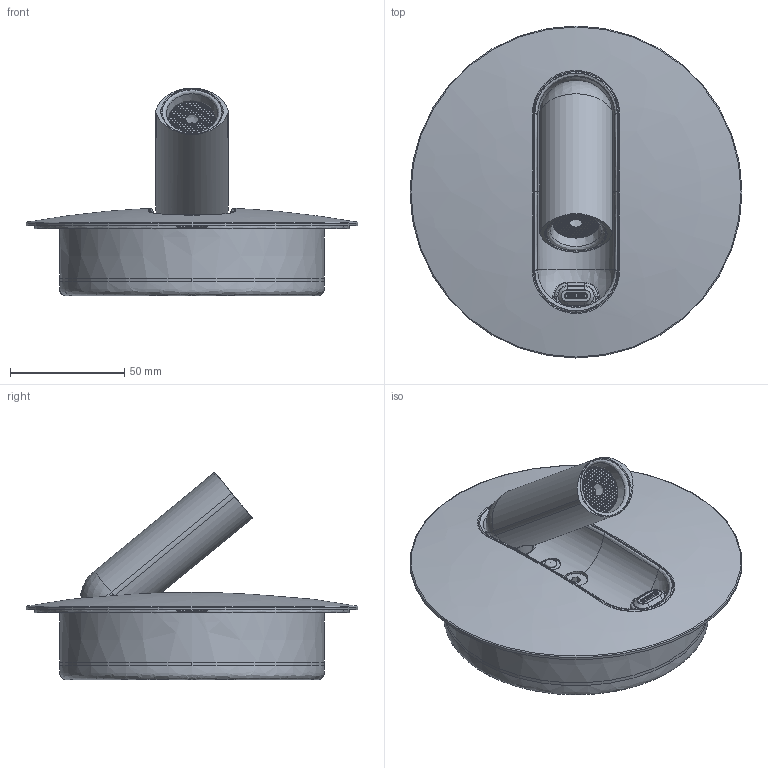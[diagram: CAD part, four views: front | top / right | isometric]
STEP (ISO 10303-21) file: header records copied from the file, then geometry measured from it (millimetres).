
FILE_DESCRIPTION(/* description */ (''),/* implementation_level */ '2;1');
FILE_NAME(/* name */ 'timit_walllamp_usb.step',/* time_stamp */ '2024-12-12T08:36:54+01:00',/* author */ ('RenataManzini'),/* organization */ (''),/* preprocessor_version */ 'ST-DEVELOPER v20',/* originating_system */ 'AutoCAD Mechanical',/* authorisation */ '');
FILE_SCHEMA (('AUTOMOTIVE_DESIGN { 1 0 10303 214 3 1 1 }'));
Length unit declared in the file: millimetre
Products named in the file (1): Product
Bounding box: 145 x 145 x 90.65 mm (x, y, z)
Volume: 26079.4 mm3; surface area: 113629.1 mm2
Topology: 9 solids, 12 shells, 1015 faces, 2287 edges, 1426 vertices
Faces by surface type: cylinder 400, plane 388, bspline 154, torus 32, cone 23, sphere 18
Full cylindrical faces by diameter (mm): 1.2 x141, 2.4 x2, 3 x4, 4 x1, 4.6 x4, 5 x5, 5.2 x1, 5.643 x2, 6.8 x1, 7 x1, 8.596 x1, 10 x1, 10.4 x1, 10.461 x1, 20.2 x1, 22.3 x1, 24.8 x1, 30 x1, 145 x1
Entity records: 39620 total; most frequent: CARTESIAN_POINT 17170, DIRECTION 4863, ORIENTED_EDGE 4509, EDGE_CURVE 2280, AXIS2_PLACEMENT_3D 2020, VERTEX_POINT 1428, EDGE_LOOP 1210, CIRCLE 1112
